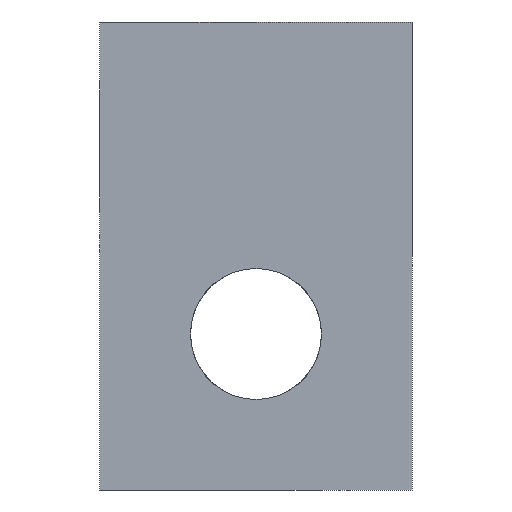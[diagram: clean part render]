
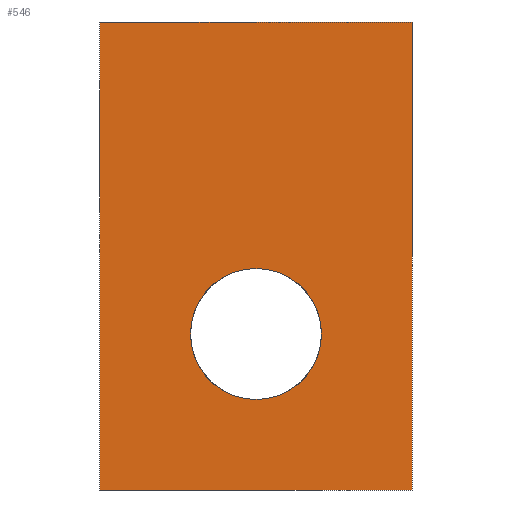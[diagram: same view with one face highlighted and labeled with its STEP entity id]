
A CAD part, left-side view. The second image highlights one B-rep face of the part: STEP entity #546.
In plain terms, the highlighted planar face has unit normal (-1, 0, 0).
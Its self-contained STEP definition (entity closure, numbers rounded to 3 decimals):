
#29 = CARTESIAN_POINT ( 'NONE',  ( -17., 0., -2.5 ) ) ;
#31 = EDGE_CURVE ( 'NONE', #266, #980, #1070, .T. ) ;
#41 = EDGE_CURVE ( 'NONE', #892, #879, #676, .T. ) ;
#66 = DIRECTION ( 'NONE',  ( 0., -1., 0. ) ) ;
#78 = CARTESIAN_POINT ( 'NONE',  ( -17., 5., -7.5 ) ) ;
#92 = CARTESIAN_POINT ( 'NONE',  ( -17., 0., -4.6 ) ) ;
#105 = CARTESIAN_POINT ( 'NONE',  ( -17., 0., -0.4 ) ) ;
#122 = AXIS2_PLACEMENT_3D ( 'NONE', #29, #1033, #234 ) ;
#195 = EDGE_CURVE ( 'NONE', #980, #266, #1077, .T. ) ;
#208 = EDGE_LOOP ( 'NONE', ( #729, #730, #1043, #740 ) ) ;
#234 = DIRECTION ( 'NONE',  ( 0., 0., 1. ) ) ;
#237 = VECTOR ( 'NONE', #548, 1000. ) ;
#266 = VERTEX_POINT ( 'NONE', #92 ) ;
#288 = VECTOR ( 'NONE', #460, 1000. ) ;
#299 = EDGE_CURVE ( 'NONE', #892, #706, #416, .T. ) ;
#359 = CARTESIAN_POINT ( 'NONE',  ( -17., 5., -7.5 ) ) ;
#361 = CARTESIAN_POINT ( 'NONE',  ( -17., 5., 7.5 ) ) ;
#397 = DIRECTION ( 'NONE',  ( 0., 0., 1. ) ) ;
#405 = CARTESIAN_POINT ( 'NONE',  ( -17., -5., -7.5 ) ) ;
#416 = LINE ( 'NONE', #78, #615 ) ;
#439 = FACE_OUTER_BOUND ( 'NONE', #208, .T. ) ;
#447 = FACE_BOUND ( 'NONE', #1036, .T. ) ;
#458 = CARTESIAN_POINT ( 'NONE',  ( -17., 5., 7.5 ) ) ;
#460 = DIRECTION ( 'NONE',  ( 0., -1., 0. ) ) ;
#522 = AXIS2_PLACEMENT_3D ( 'NONE', #607, #655, #397 ) ;
#546 = ADVANCED_FACE ( 'NONE', ( #447, #439 ), #692, .F. ) ;
#548 = DIRECTION ( 'NONE',  ( 0., 0., 1. ) ) ;
#569 = CARTESIAN_POINT ( 'NONE',  ( -17., -5., -7.5 ) ) ;
#607 = CARTESIAN_POINT ( 'NONE',  ( -17., 0., -2.5 ) ) ;
#615 = VECTOR ( 'NONE', #66, 1000. ) ;
#655 = DIRECTION ( 'NONE',  ( -1., 0., 0. ) ) ;
#672 = VECTOR ( 'NONE', #687, 1000. ) ;
#674 = DIRECTION ( 'NONE',  ( 0., 0., -1. ) ) ;
#676 = LINE ( 'NONE', #716, #672 ) ;
#677 = DIRECTION ( 'NONE',  ( 1., 0., 0. ) ) ;
#686 = CARTESIAN_POINT ( 'NONE',  ( -17., 5., -7.5 ) ) ;
#687 = DIRECTION ( 'NONE',  ( 0., 0., 1. ) ) ;
#692 = PLANE ( 'NONE',  #940 ) ;
#701 = LINE ( 'NONE', #405, #237 ) ;
#706 = VERTEX_POINT ( 'NONE', #569 ) ;
#716 = CARTESIAN_POINT ( 'NONE',  ( -17., 5., -7.5 ) ) ;
#718 = ORIENTED_EDGE ( 'NONE', *, *, #195, .F. ) ;
#719 = ORIENTED_EDGE ( 'NONE', *, *, #31, .F. ) ;
#729 = ORIENTED_EDGE ( 'NONE', *, *, #844, .T. ) ;
#730 = ORIENTED_EDGE ( 'NONE', *, *, #782, .F. ) ;
#740 = ORIENTED_EDGE ( 'NONE', *, *, #299, .T. ) ;
#748 = VERTEX_POINT ( 'NONE', #953 ) ;
#782 = EDGE_CURVE ( 'NONE', #879, #748, #1072, .T. ) ;
#844 = EDGE_CURVE ( 'NONE', #706, #748, #701, .T. ) ;
#879 = VERTEX_POINT ( 'NONE', #361 ) ;
#892 = VERTEX_POINT ( 'NONE', #359 ) ;
#940 = AXIS2_PLACEMENT_3D ( 'NONE', #686, #677, #674 ) ;
#953 = CARTESIAN_POINT ( 'NONE',  ( -17., -5., 7.5 ) ) ;
#980 = VERTEX_POINT ( 'NONE', #105 ) ;
#1033 = DIRECTION ( 'NONE',  ( -1., 0., 0. ) ) ;
#1036 = EDGE_LOOP ( 'NONE', ( #718, #719 ) ) ;
#1043 = ORIENTED_EDGE ( 'NONE', *, *, #41, .F. ) ;
#1070 = CIRCLE ( 'NONE', #522, 2.1 ) ;
#1072 = LINE ( 'NONE', #458, #288 ) ;
#1077 = CIRCLE ( 'NONE', #122, 2.1 ) ;
